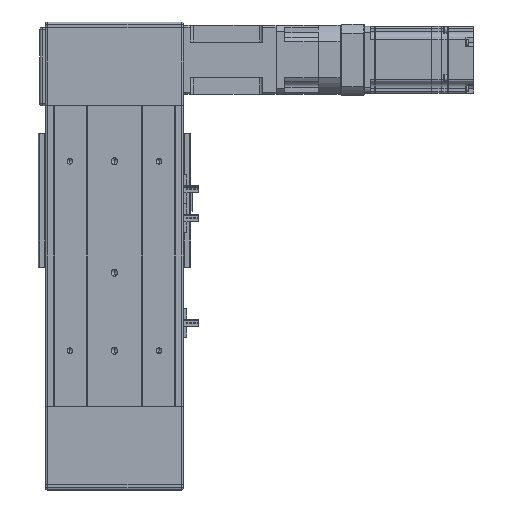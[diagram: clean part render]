
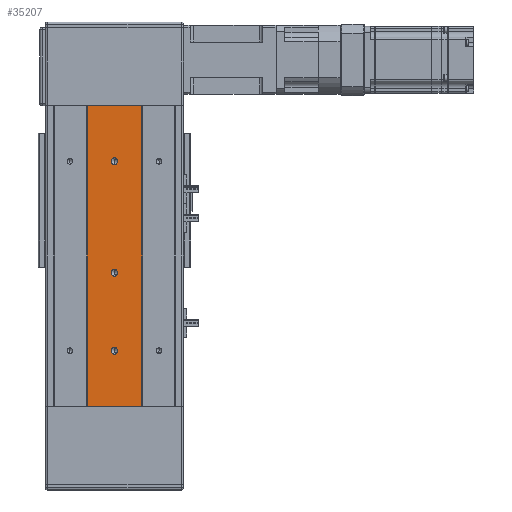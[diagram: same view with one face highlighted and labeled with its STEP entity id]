
A CAD part, front view. The second image highlights one B-rep face of the part: STEP entity #35207.
In plain terms, the highlighted planar face has unit normal (0, -1, 0).
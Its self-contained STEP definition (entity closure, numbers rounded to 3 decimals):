
#257 = CARTESIAN_POINT ( 'NONE',  ( -24.5, -42., 135. ) ) ;
#287 = CARTESIAN_POINT ( 'NONE',  ( 24.5, -42., -135. ) ) ;
#289 = CARTESIAN_POINT ( 'NONE',  ( 24.5, -42., 135. ) ) ;
#321 = CARTESIAN_POINT ( 'NONE',  ( -24.5, -42., -135. ) ) ;
#1050 = CIRCLE ( 'NONE', #42951, 3. ) ;
#1099 = CIRCLE ( 'NONE', #42920, 3. ) ;
#1129 = VECTOR ( 'NONE', #6428, 1000. ) ;
#1144 = LINE ( 'NONE', #6425, #1148 ) ;
#1146 = LINE ( 'NONE', #6401, #1129 ) ;
#1148 = VECTOR ( 'NONE', #6417, 1000. ) ;
#3857 = VERTEX_POINT ( 'NONE', #257 ) ;
#3949 = VERTEX_POINT ( 'NONE', #321 ) ;
#3961 = VERTEX_POINT ( 'NONE', #287 ) ;
#3969 = VERTEX_POINT ( 'NONE', #289 ) ;
#6283 = CARTESIAN_POINT ( 'NONE',  ( 0., -42., -85. ) ) ;
#6284 = DIRECTION ( 'NONE',  ( 0., 1., 0. ) ) ;
#6285 = DIRECTION ( 'NONE',  ( 0., 0., 1. ) ) ;
#6296 = DIRECTION ( 'NONE',  ( 0., 0., 1. ) ) ;
#6300 = DIRECTION ( 'NONE',  ( 0., 1., 0. ) ) ;
#6312 = CARTESIAN_POINT ( 'NONE',  ( 0., -42., -15. ) ) ;
#6401 = CARTESIAN_POINT ( 'NONE',  ( -24.5, -42., 135. ) ) ;
#6417 = DIRECTION ( 'NONE',  ( 1., 0., 0. ) ) ;
#6425 = CARTESIAN_POINT ( 'NONE',  ( 0., -42., 135. ) ) ;
#6428 = DIRECTION ( 'NONE',  ( 0., 0., -1. ) ) ;
#7167 = ORIENTED_EDGE ( 'NONE', *, *, #41308, .T. ) ;
#7171 = ORIENTED_EDGE ( 'NONE', *, *, #41210, .T. ) ;
#7207 = ORIENTED_EDGE ( 'NONE', *, *, #23858, .T. ) ;
#7231 = ORIENTED_EDGE ( 'NONE', *, *, #9426, .T. ) ;
#7235 = ORIENTED_EDGE ( 'NONE', *, *, #23862, .T. ) ;
#7246 = ORIENTED_EDGE ( 'NONE', *, *, #9388, .F. ) ;
#7257 = ORIENTED_EDGE ( 'NONE', *, *, #41315, .T. ) ;
#7262 = ORIENTED_EDGE ( 'NONE', *, *, #23948, .F. ) ;
#7265 = ORIENTED_EDGE ( 'NONE', *, *, #23967, .T. ) ;
#7269 = ORIENTED_EDGE ( 'NONE', *, *, #9393, .T. ) ;
#9388 = EDGE_CURVE ( 'NONE', #3969, #3961, #29466, .T. ) ;
#9393 = EDGE_CURVE ( 'NONE', #3949, #3961, #29486, .T. ) ;
#9426 = EDGE_CURVE ( 'NONE', #14357, #14386, #22197, .T. ) ;
#14357 = VERTEX_POINT ( 'NONE', #53754 ) ;
#14373 = VERTEX_POINT ( 'NONE', #53826 ) ;
#14385 = VERTEX_POINT ( 'NONE', #53835 ) ;
#14386 = VERTEX_POINT ( 'NONE', #53827 ) ;
#14409 = VERTEX_POINT ( 'NONE', #53806 ) ;
#14419 = VERTEX_POINT ( 'NONE', #53886 ) ;
#18697 = EDGE_LOOP ( 'NONE', ( #7171, #7207 ) ) ;
#18725 = EDGE_LOOP ( 'NONE', ( #7269, #7246, #7262, #7265 ) ) ;
#18728 = EDGE_LOOP ( 'NONE', ( #7167, #7231 ) ) ;
#18743 = EDGE_LOOP ( 'NONE', ( #7257, #7235 ) ) ;
#22197 = CIRCLE ( 'NONE', #41715, 3. ) ;
#23858 = EDGE_CURVE ( 'NONE', #14409, #14385, #1099, .T. ) ;
#23862 = EDGE_CURVE ( 'NONE', #14373, #14419, #1050, .T. ) ;
#23874 = FACE_OUTER_BOUND ( 'NONE', #18725, .T. ) ;
#23882 = FACE_BOUND ( 'NONE', #18697, .T. ) ;
#23884 = FACE_BOUND ( 'NONE', #18743, .T. ) ;
#23948 = EDGE_CURVE ( 'NONE', #3857, #3969, #1144, .T. ) ;
#23967 = EDGE_CURVE ( 'NONE', #3857, #3949, #1146, .T. ) ;
#23972 = FACE_BOUND ( 'NONE', #18728, .T. ) ;
#25828 = CIRCLE ( 'NONE', #55149, 3. ) ;
#25904 = CIRCLE ( 'NONE', #55151, 3. ) ;
#26296 = DIRECTION ( 'NONE',  ( 0., 0., -1. ) ) ;
#26302 = CARTESIAN_POINT ( 'NONE',  ( 24.5, -42., 135. ) ) ;
#26355 = DIRECTION ( 'NONE',  ( 1., 0., 0. ) ) ;
#26369 = CARTESIAN_POINT ( 'NONE',  ( 0., -42., -135. ) ) ;
#26424 = DIRECTION ( 'NONE',  ( 0., 0., 1. ) ) ;
#26425 = DIRECTION ( 'NONE',  ( 0., 1., 0. ) ) ;
#26448 = CARTESIAN_POINT ( 'NONE',  ( 0., -42., 85. ) ) ;
#29463 = VECTOR ( 'NONE', #26296, 1000. ) ;
#29466 = LINE ( 'NONE', #26302, #29463 ) ;
#29482 = VECTOR ( 'NONE', #26355, 1000. ) ;
#29486 = LINE ( 'NONE', #26369, #29482 ) ;
#30911 = CIRCLE ( 'NONE', #55173, 3. ) ;
#35207 = ADVANCED_FACE ( 'NONE', ( #23972, #23882, #23884, #23874 ), #59608, .F. ) ;
#41210 = EDGE_CURVE ( 'NONE', #14385, #14409, #30911, .T. ) ;
#41308 = EDGE_CURVE ( 'NONE', #14386, #14357, #25828, .T. ) ;
#41315 = EDGE_CURVE ( 'NONE', #14419, #14373, #25904, .T. ) ;
#41715 = AXIS2_PLACEMENT_3D ( 'NONE', #26448, #26425, #26424 ) ;
#42404 = AXIS2_PLACEMENT_3D ( 'NONE', #59618, #59606, #59559 ) ;
#42920 = AXIS2_PLACEMENT_3D ( 'NONE', #6312, #6300, #6296 ) ;
#42951 = AXIS2_PLACEMENT_3D ( 'NONE', #6283, #6284, #6285 ) ;
#53754 = CARTESIAN_POINT ( 'NONE',  ( 0., -42., 88. ) ) ;
#53806 = CARTESIAN_POINT ( 'NONE',  ( 0., -42., -12. ) ) ;
#53826 = CARTESIAN_POINT ( 'NONE',  ( 0., -42., -82. ) ) ;
#53827 = CARTESIAN_POINT ( 'NONE',  ( 0., -42., 82. ) ) ;
#53835 = CARTESIAN_POINT ( 'NONE',  ( 0., -42., -18. ) ) ;
#53886 = CARTESIAN_POINT ( 'NONE',  ( 0., -42., -88. ) ) ;
#54599 = DIRECTION ( 'NONE',  ( 0., 1., 0. ) ) ;
#54607 = CARTESIAN_POINT ( 'NONE',  ( 0., -42., -15. ) ) ;
#54613 = DIRECTION ( 'NONE',  ( 0., 0., 1. ) ) ;
#54712 = DIRECTION ( 'NONE',  ( 0., 1., 0. ) ) ;
#54721 = DIRECTION ( 'NONE',  ( 0., 0., 1. ) ) ;
#54732 = CARTESIAN_POINT ( 'NONE',  ( 0., -42., 85. ) ) ;
#54761 = DIRECTION ( 'NONE',  ( 0., 1., 0. ) ) ;
#54762 = DIRECTION ( 'NONE',  ( 0., 0., 1. ) ) ;
#54776 = CARTESIAN_POINT ( 'NONE',  ( 0., -42., -85. ) ) ;
#55149 = AXIS2_PLACEMENT_3D ( 'NONE', #54732, #54712, #54721 ) ;
#55151 = AXIS2_PLACEMENT_3D ( 'NONE', #54776, #54761, #54762 ) ;
#55173 = AXIS2_PLACEMENT_3D ( 'NONE', #54607, #54599, #54613 ) ;
#59559 = DIRECTION ( 'NONE',  ( 0., 0., 1. ) ) ;
#59606 = DIRECTION ( 'NONE',  ( 0., 1., 0. ) ) ;
#59608 = PLANE ( 'NONE',  #42404 ) ;
#59618 = CARTESIAN_POINT ( 'NONE',  ( 0., -42., 135. ) ) ;
